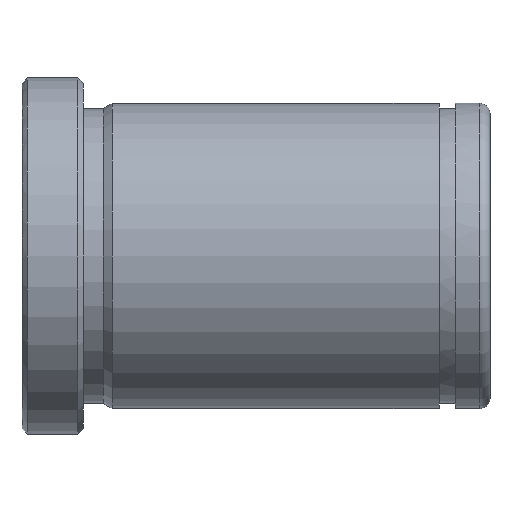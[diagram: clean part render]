
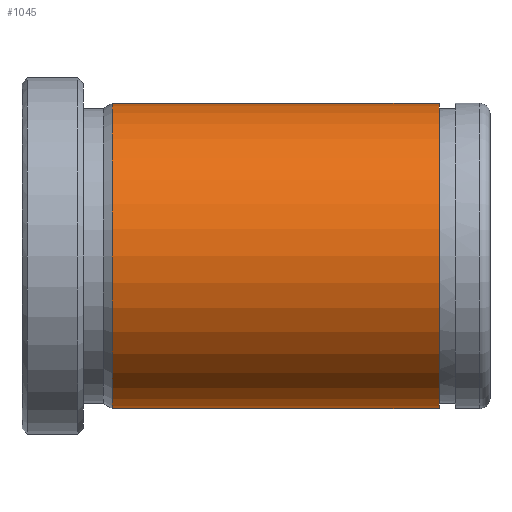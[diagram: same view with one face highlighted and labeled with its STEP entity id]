
A CAD part, front view. The second image highlights one B-rep face of the part: STEP entity #1045.
In plain terms, the highlighted cylindrical face has radius 15 mm (diameter 30 mm), a partial arc.
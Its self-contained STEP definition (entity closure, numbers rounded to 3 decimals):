
#851=CARTESIAN_POINT('Vertex',(8.866,0.,-15.)) ;
#858=CARTESIAN_POINT('Vertex',(8.866,0.,15.)) ;
#887=CARTESIAN_POINT('Axis2P3D Location',(8.866,0.,0.)) ;
#891=CARTESIAN_POINT('Vertex',(8.866,-15.,0.)) ;
#894=CARTESIAN_POINT('Axis2P3D Location',(8.866,0.,0.)) ;
#985=CARTESIAN_POINT('Line Origine',(92.,0.,15.)) ;
#989=CARTESIAN_POINT('Vertex',(41.,0.,15.)) ;
#1003=CARTESIAN_POINT('Vertex',(41.,0.,-15.)) ;
#1006=CARTESIAN_POINT('Line Origine',(92.,0.,-15.)) ;
#1020=CARTESIAN_POINT('Axis2P3D Location',(92.,0.,0.)) ;
#1025=CARTESIAN_POINT('Axis2P3D Location',(41.,0.,0.)) ;
#1029=CARTESIAN_POINT('Vertex',(41.,-15.,0.)) ;
#1032=CARTESIAN_POINT('Axis2P3D Location',(41.,0.,0.)) ;
#888=DIRECTION('Axis2P3D Direction',(1.,0.,-0.)) ;
#895=DIRECTION('Axis2P3D Direction',(1.,0.,-0.)) ;
#986=DIRECTION('Vector Direction',(-1.,0.,0.)) ;
#1007=DIRECTION('Vector Direction',(-1.,0.,0.)) ;
#1021=DIRECTION('Axis2P3D Direction',(-1.,-0.,-0.)) ;
#1022=DIRECTION('Axis2P3D XDirection',(0.,0.,-1.)) ;
#1026=DIRECTION('Axis2P3D Direction',(-1.,-0.,-0.)) ;
#1033=DIRECTION('Axis2P3D Direction',(-1.,-0.,-0.)) ;
#889=AXIS2_PLACEMENT_3D('Circle Axis2P3D',#887,#888,$) ;
#896=AXIS2_PLACEMENT_3D('Circle Axis2P3D',#894,#895,$) ;
#1023=AXIS2_PLACEMENT_3D('Cylinder Axis2P3D',#1020,#1021,#1022) ;
#1027=AXIS2_PLACEMENT_3D('Circle Axis2P3D',#1025,#1026,$) ;
#1034=AXIS2_PLACEMENT_3D('Circle Axis2P3D',#1032,#1033,$) ;
#1038=ORIENTED_EDGE('',*,*,#1010,.T.) ;
#1039=ORIENTED_EDGE('',*,*,#1031,.F.) ;
#1040=ORIENTED_EDGE('',*,*,#1036,.F.) ;
#1041=ORIENTED_EDGE('',*,*,#991,.T.) ;
#1042=ORIENTED_EDGE('',*,*,#898,.T.) ;
#1043=ORIENTED_EDGE('',*,*,#893,.T.) ;
#987=VECTOR('Line Direction',#986,1.) ;
#1008=VECTOR('Line Direction',#1007,1.) ;
#1045=ADVANCED_FACE('553-24X46',(#1044),#1024,.T.) ;
#890=CIRCLE('generated circle',#889,15.) ;
#897=CIRCLE('generated circle',#896,15.) ;
#1028=CIRCLE('generated circle',#1027,15.) ;
#1035=CIRCLE('generated circle',#1034,15.) ;
#1024=CYLINDRICAL_SURFACE('generated cylinder',#1023,15.) ;
#893=EDGE_CURVE('',#892,#852,#890,.T.) ;
#898=EDGE_CURVE('',#859,#892,#897,.T.) ;
#991=EDGE_CURVE('',#990,#859,#988,.T.) ;
#1010=EDGE_CURVE('',#852,#1004,#1009,.F.) ;
#1031=EDGE_CURVE('',#1030,#1004,#1028,.F.) ;
#1036=EDGE_CURVE('',#990,#1030,#1035,.F.) ;
#1037=EDGE_LOOP('',(#1038,#1039,#1040,#1041,#1042,#1043)) ;
#1044=FACE_OUTER_BOUND('',#1037,.T.) ;
#988=LINE('Line',#985,#987) ;
#1009=LINE('Line',#1006,#1008) ;
#852=VERTEX_POINT('',#851) ;
#859=VERTEX_POINT('',#858) ;
#892=VERTEX_POINT('',#891) ;
#990=VERTEX_POINT('',#989) ;
#1004=VERTEX_POINT('',#1003) ;
#1030=VERTEX_POINT('',#1029) ;
